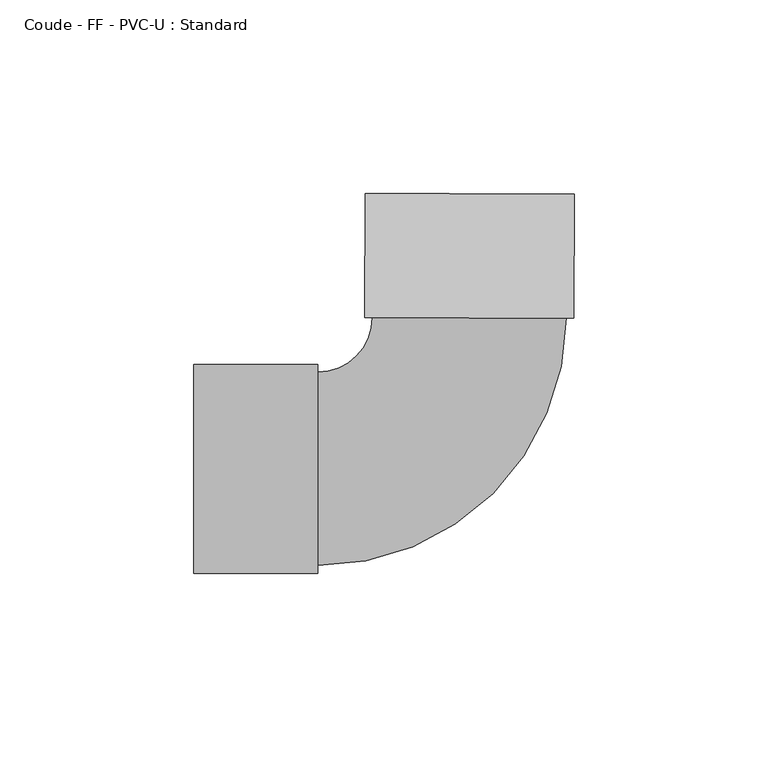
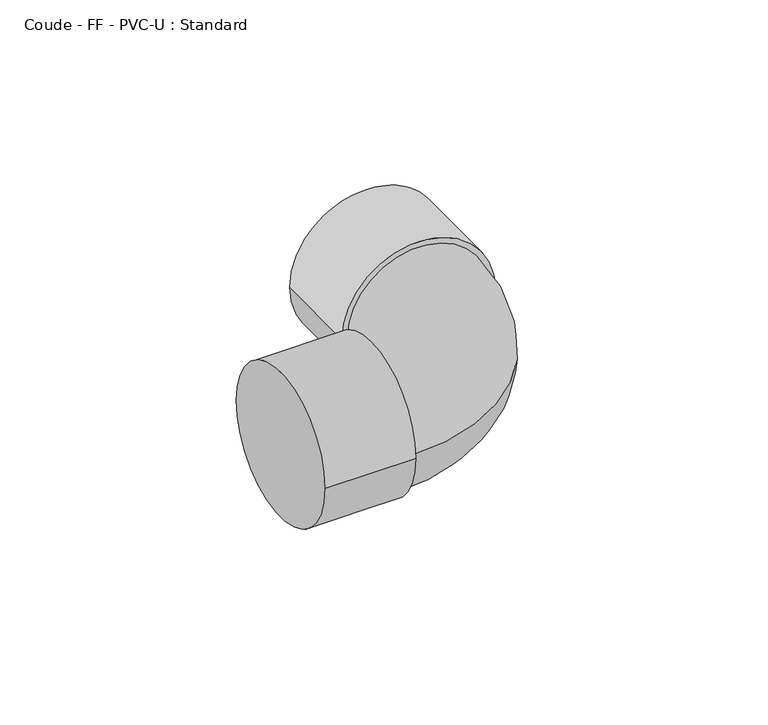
"""IFC4 building model written with IfcOpenShell, lengths in millimetres: pipe fitting geometry, Coude - FF - PVC-U : Standard."""

from ifc_helpers import new_model, si_unit, point, frame, origin, place, context, project, spatial, circle_curve, ellipse_curve, trimmed, source, transform, mapped, element, save
from ifc_brep_helpers import plane_surface, cylinder_surface, revolved_surface, advanced_brep


def coude_ff_pvc_u_standard_fd0256b4(model_context):
    return source(origin(), model_context, "Body", "AdvancedBrep", [
        advanced_brep(
        [(-71.0, -27.0, 0.0), (-71.0, 27.0, 0.0), (-39.0, -27.0, 0.0), (-39.0, 27.0, 0.0), (-39.0, -25.0, 0.0), (-39.0, 25.0, 0.0), (-24.8539826, 39.0932162, 0.0), (25.1456678, 38.9062384, 0.0), (27.1456538, 38.8987593, 0.0), (-26.8539686, 39.1006953, 0.0), (27.2653196, 70.8985356, 0.0), (-26.7343029, 71.1004715, 0.0)],
        [
            (0, 1, circle_curve(frame((-71.0, 0.0, 0.0), z_axis=(-1.0, 0.0, 0.0), x_axis=(0.0, 1.0, 0.0)), 27.0)),
            (1, 0, circle_curve(frame((-71.0, 0.0, 0.0), z_axis=(-1.0, 0.0, 0.0), x_axis=(0.0, 1.0, 0.0)), 27.0)),
            (2, 3, circle_curve(frame((-39.0, 0.0, 0.0), z_axis=(1.0, 0.0, 0.0), x_axis=(0.0, 1.0, 0.0)), 27.0)),
            (3, 2, circle_curve(frame((-39.0, 0.0, 0.0), z_axis=(1.0, 0.0, 0.0), x_axis=(0.0, 1.0, 0.0)), 27.0)),
            (4, 5, circle_curve(frame((-39.0, 0.0, 0.0), z_axis=(-1.0, 0.0, 0.0), x_axis=(0.0, 1.0, 0.0)), 25.0)),
            (5, 4, circle_curve(frame((-39.0, 0.0, 0.0), z_axis=(-1.0, 0.0, 0.0), x_axis=(0.0, 1.0, 0.0)), 25.0)),
            (0, 2),
            (3, 1),
            (6, 5, circle_curve(frame((-39.0, 39.1461163, 0.0), z_axis=(0.0, 0.0, -1.0), x_axis=(0.0, -1.0, 0.0)), 14.1461163)),
            (4, 7, circle_curve(frame((-39.0, 39.1461163, 0.0), z_axis=(0.0, 0.0, 1.0), x_axis=(0.0, -1.0, 0.0)), 64.1461163)),
            (7, 6, circle_curve(frame((0.1458426, 38.9997273, 0.0), z_axis=(-0.0037395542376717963, -0.9999930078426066, 0.0), x_axis=(-0.9999930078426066, 0.0037395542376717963, 0.0)), 25.0)),
            (6, 7, circle_curve(frame((0.1458426, 38.9997273, 0.0), z_axis=(-0.0037395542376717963, -0.9999930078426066, 0.0), x_axis=(-0.9999930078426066, 0.0037395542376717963, 0.0)), 25.0)),
            (8, 9, circle_curve(frame((0.1458426, 38.9997273, 0.0), z_axis=(-0.0037395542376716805, -0.9999930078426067, 0.0), x_axis=(-0.9999930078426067, 0.0037395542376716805, 0.0)), 27.0)),
            (9, 8, circle_curve(frame((0.1458426, 38.9997273, 0.0), z_axis=(-0.0037395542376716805, -0.9999930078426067, 0.0), x_axis=(-0.9999930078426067, 0.0037395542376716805, 0.0)), 27.0)),
            (10, 11, circle_curve(frame((0.2655084, 70.9995036, 0.0), z_axis=(0.0037395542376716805, 0.9999930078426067, 0.0), x_axis=(-0.9999930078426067, 0.0037395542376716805, 0.0)), 27.0)),
            (11, 10, circle_curve(frame((0.2655084, 70.9995036, 0.0), z_axis=(0.0037395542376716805, 0.9999930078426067, 0.0), x_axis=(-0.9999930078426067, 0.0037395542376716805, 0.0)), 27.0)),
            (8, 10),
            (11, 9),
        ],
        [
            plane_surface(frame((-71.0, 0.0, 0.0), z_axis=(-1.0, 0.0, 0.0), x_axis=(0.0, 0.0, 1.0))),
            plane_surface(frame((-39.0, 0.0, 0.0), z_axis=(1.0, 0.0, 0.0), x_axis=(0.0, 0.0, 1.0))),
            cylinder_surface(frame((-71.0, 0.0, 0.0), z_axis=(-1.0, 0.0, 0.0), x_axis=(0.0, 1.0, 0.0)), 27.0),
            revolved_surface(trimmed(ellipse_curve(frame((-39.0, 0.0, 0.0), z_axis=(-1.0, 0.0, 0.0), x_axis=(0.0, 1.0, 0.0)), 25.0, 25.0), [point((-39.0, -25.0, 0.0))], [point((-39.0, 25.0, 0.0))], True, "CARTESIAN"), (-39.0, 39.1461163, 0.0), (0.0, 0.0, 1.0)),
            revolved_surface(trimmed(ellipse_curve(frame((-39.0, 0.0, 0.0), z_axis=(-1.0, 0.0, 0.0), x_axis=(0.0, 1.0, 0.0)), 25.0, 25.0), [point((-39.0, 25.0, 0.0))], [point((-39.0, -25.0, 0.0))], True, "CARTESIAN"), (-39.0, 39.1461163, 0.0), (0.0, 0.0, 1.0)),
            plane_surface(frame((0.1458426, 38.9997273, 0.0), z_axis=(-0.0037395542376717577, -0.9999930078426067, 0.0), x_axis=(0.0, 0.0, 1.0))),
            plane_surface(frame((0.2655084, 70.9995036, 0.0), z_axis=(0.0037395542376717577, 0.9999930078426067, 0.0), x_axis=(0.0, 0.0, 1.0))),
            cylinder_surface(frame((0.1458426, 38.9997273, 0.0), z_axis=(-0.0037395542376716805, -0.9999930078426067, 0.0), x_axis=(-0.9999930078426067, 0.0037395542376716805, 0.0)), 27.0),
        ],
        [
            (0, [[1, 2]]),
            (1, [[3, 4], [5, 6]]),
            (2, [[-1, 7, -4, 8]]),
            (2, [[-2, -8, -3, -7]]),
            (3, [[9, -5, 10, 11]]),
            (4, [[-9, 12, -10, -6]]),
            (5, [[13, 14], [-11, -12]]),
            (6, [[15, 16]]),
            (7, [[-13, 17, -16, 18]]),
            (7, [[-14, -18, -15, -17]]),
        ],
    ),
    ])


if __name__ == "__main__":
    model = new_model("IFC4")
    model_context = context("Model", 3, world=origin())
    ifc_project = project(units=[si_unit("LENGTHUNIT", "METRE", prefix="MILLI")], contexts=[model_context])
    site = spatial("IfcSite", under=ifc_project)
    building = spatial("IfcBuilding", under=site)
    placement = place(None, origin())
    coude_ff_pvc_u_standard_shape = coude_ff_pvc_u_standard_fd0256b4(model_context)
    element("IfcPipeFitting", 1, ObjectType="Coude - FF - PVC-U : Standard", at=placement, inside=building, context=model_context, shape_type="MappedRepresentation", body=[
        mapped(coude_ff_pvc_u_standard_shape, transform((0.0, 0.0, 0.0), x_axis=(1.0, 0.0, 0.0), y_axis=(0.0, 1.0, 0.0), z_axis=(0.0, 0.0, 1.0))),
    ])
    save(model, "model.ifc")
